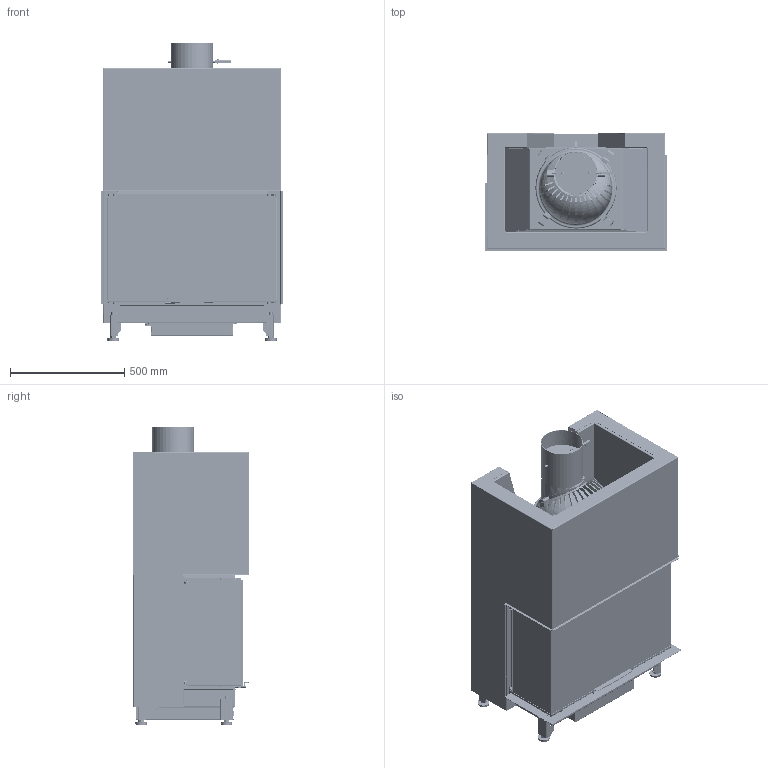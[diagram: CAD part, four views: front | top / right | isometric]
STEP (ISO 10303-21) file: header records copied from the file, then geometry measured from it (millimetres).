
FILE_DESCRIPTION(/* description */ (''),/* implementation_level */ '2;1');
FILE_NAME(/* name */ 'C:\ADSK_DM_WS\CAD_3D\03 Geraete\RAS 50x80x42\Zeichnungen\2023-01666.stp',/* time_stamp */ '2023-05-02T07:23:58+02:00',/* author */ ('CPI'),/* organization */ (''),/* preprocessor_version */ 'ST-DEVELOPER v18.1',/* originating_system */ 'Autodesk Inventor 2022',/* authorisation */ '');
FILE_SCHEMA (('AUTOMOTIVE_DESIGN { 1 0 10303 214 3 1 1 }'));
Products named in the file (8): 2023-01666; 2023-01661; 2023-01658; 2023-01657; 2023-01636; 2023-01634; 2023-01633; 2022-04522
Assembly tree (7 placements, depth 2):
  2023-01666
    2023-01661
    2023-01658
    2023-01657
    2023-01636
    2023-01634
    2023-01633
    2022-04522
Bounding box: 800 x 516.5 x 1301.02 mm (x, y, z)
Volume: 34344550.8 mm3; surface area: 16722041.5 mm2
Topology: 24 solids, 49 shells, 8930 faces, 24423 edges, 15487 vertices
Faces by surface type: plane 5340, cylinder 3005, bspline 304, cone 183, torus 97, sphere 1
Full cylindrical faces by diameter (mm): 3.242 x6, 4 x2, 4.5 x4, 4.8 x6, 5 x10, 6 x4, 6.03 x2, 7.5 x8, 7.8 x2, 7.9 x2, 8 x4, 8.2 x1, 9 x2, 9.5 x18, 10 x9, 10.21 x4, 11 x5, 11.192 x2, 11.4 x4, 12 x7, 13.502 x4, 14 x2, 15 x2, 16 x17, 18 x4, 20 x4, 30 x4, 163 x1, 333 x1, 339 x1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
Entity records: 299090 total; most frequent: CARTESIAN_POINT 65773, ORIENTED_EDGE 48708, DIRECTION 47437, EDGE_CURVE 24442, LINE 16015, VECTOR 16015, AXIS2_PLACEMENT_3D 15711, VERTEX_POINT 15491
